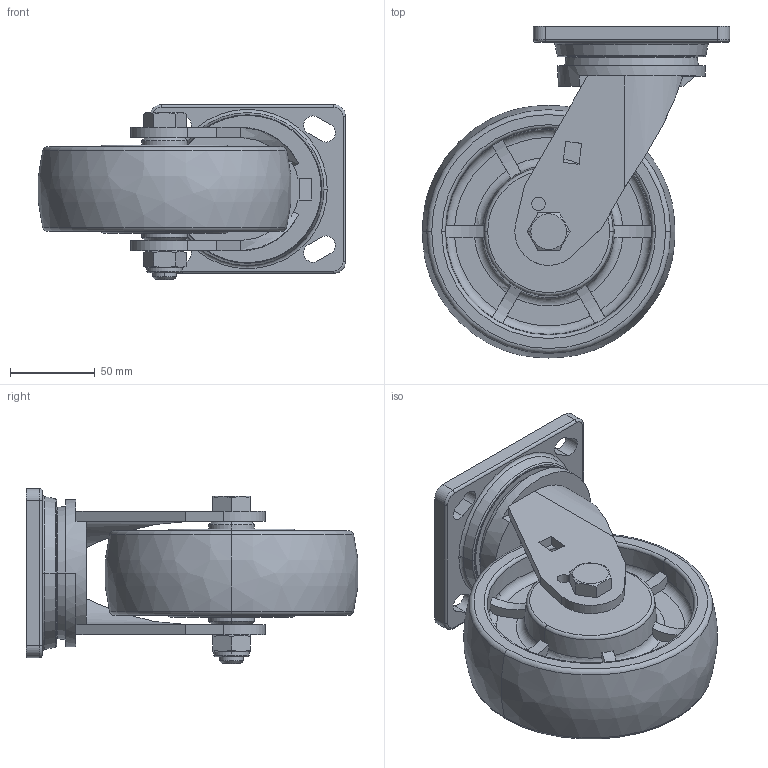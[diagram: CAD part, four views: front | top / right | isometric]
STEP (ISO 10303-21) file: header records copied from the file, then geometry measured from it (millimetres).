
FILE_DESCRIPTION((''),'2;1');
FILE_NAME('78114_ASM','2021-06-01T',('lenovo'),(''),'PRO/ENGINEER BY PARAMETRIC TECHNOLOGY CORPORATION, 2010280','PRO/ENGINEER BY PARAMETRIC TECHNOLOGY CORPORATION, 2010280','');
FILE_SCHEMA(('CONFIG_CONTROL_DESIGN'));
Length unit declared in the file: millimetre
Products named in the file (7): 7810-201; 766C11; 7810-211; 786-926; 780-33; 780-34; 78114_ASM
Assembly tree (6 placements, depth 2):
  78114_ASM
    7810-201
    766C11
    7810-211
    786-926
    780-33
    780-34
Bounding box: 181.67 x 196.17 x 103.5 mm (x, y, z)
Volume: 906800.2 mm3; surface area: 159712 mm2
Topology: 7 solids, 7 shells, 264 faces, 656 edges, 416 vertices
Faces by surface type: plane 110, cylinder 62, torus 58, cone 30, bspline 4
Entity records: 8806 total; most frequent: CARTESIAN_POINT 2391, DIRECTION 1326, ORIENTED_EDGE 1312, EDGE_CURVE 656, AXIS2_PLACEMENT_3D 547, VERTEX_POINT 416, EDGE_LOOP 298, CIRCLE 274
